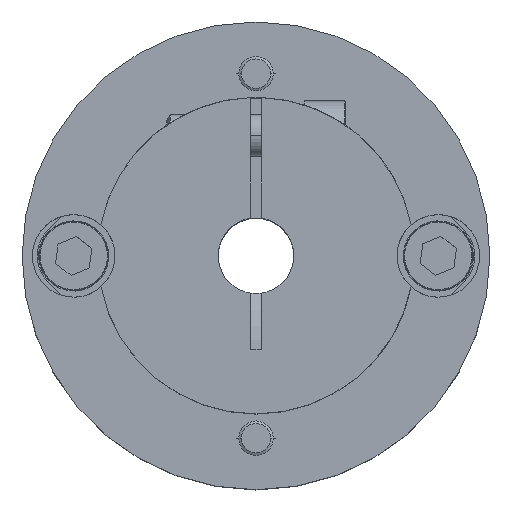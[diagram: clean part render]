
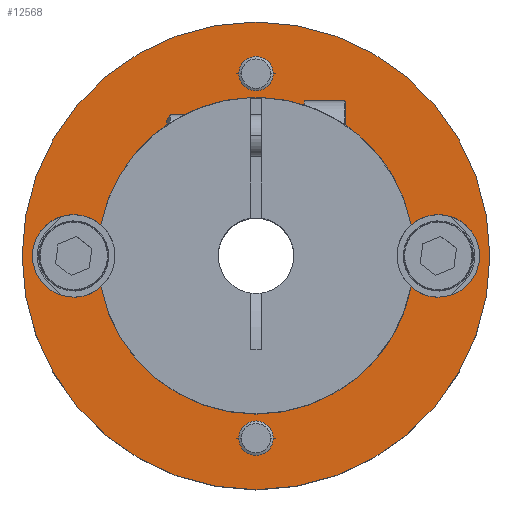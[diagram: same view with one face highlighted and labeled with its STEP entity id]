
A CAD part, top view. The second image highlights one B-rep face of the part: STEP entity #12568.
In plain terms, the highlighted planar face has unit normal (0, 0, 1).
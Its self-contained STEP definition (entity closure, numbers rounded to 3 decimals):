
#95 = CARTESIAN_POINT ( 'NONE',  ( 34.905, 33.451, 103.015 ) ) ;
#378 = AXIS2_PLACEMENT_3D ( 'NONE', #2289, #2217, #2203 ) ;
#468 = CARTESIAN_POINT ( 'NONE',  ( -30.095, 33.451, 103.015 ) ) ;
#503 = CARTESIAN_POINT ( 'NONE',  ( 24.957, 37.969, 103.015 ) ) ;
#629 = EDGE_CURVE ( 'NONE', #9625, #2410, #5537, .T. ) ;
#710 = VERTEX_POINT ( 'NONE', #10195 ) ;
#768 = CARTESIAN_POINT ( 'NONE',  ( 28.905, 33.451, 103.015 ) ) ;
#797 = CARTESIAN_POINT ( 'NONE',  ( 2.405, 59.951, 103.015 ) ) ;
#1037 = AXIS2_PLACEMENT_3D ( 'NONE', #4878, #11620, #5832 ) ;
#1059 = DIRECTION ( 'NONE',  ( -1., 0., 0. ) ) ;
#1308 = EDGE_CURVE ( 'NONE', #4390, #4210, #3944, .T. ) ;
#1508 = AXIS2_PLACEMENT_3D ( 'NONE', #11137, #11115, #4723 ) ;
#1600 = VERTEX_POINT ( 'NONE', #7363 ) ;
#1704 = VERTEX_POINT ( 'NONE', #5341 ) ;
#1745 = DIRECTION ( 'NONE',  ( -1., 0., 0. ) ) ;
#1794 = DIRECTION ( 'NONE',  ( -1., 0., 0. ) ) ;
#1871 = EDGE_CURVE ( 'NONE', #5350, #3163, #2041, .T. ) ;
#1877 = EDGE_LOOP ( 'NONE', ( #10885, #11039 ) ) ;
#1929 = AXIS2_PLACEMENT_3D ( 'NONE', #2792, #9546, #3805 ) ;
#2041 = CIRCLE ( 'NONE', #12005, 2.5 ) ;
#2203 = DIRECTION ( 'NONE',  ( -1., 0., 0. ) ) ;
#2216 = ORIENTED_EDGE ( 'NONE', *, *, #7786, .F. ) ;
#2217 = DIRECTION ( 'NONE',  ( 0., 0., 1. ) ) ;
#2224 = EDGE_LOOP ( 'NONE', ( #11976, #3776 ) ) ;
#2289 = CARTESIAN_POINT ( 'NONE',  ( 2.405, 33.451, 103.015 ) ) ;
#2321 = DIRECTION ( 'NONE',  ( 0., 0., 1. ) ) ;
#2387 = ORIENTED_EDGE ( 'NONE', *, *, #4632, .F. ) ;
#2410 = VERTEX_POINT ( 'NONE', #10324 ) ;
#2654 = EDGE_CURVE ( 'NONE', #1704, #4256, #3804, .T. ) ;
#2792 = CARTESIAN_POINT ( 'NONE',  ( 2.405, 33.451, 103.015 ) ) ;
#3065 = DIRECTION ( 'NONE',  ( -1., 0., 0. ) ) ;
#3089 = DIRECTION ( 'NONE',  ( 0., 0., 1. ) ) ;
#3092 = DIRECTION ( 'NONE',  ( 0., 0., 1. ) ) ;
#3101 = CARTESIAN_POINT ( 'NONE',  ( -24.095, 33.451, 103.015 ) ) ;
#3118 = CARTESIAN_POINT ( 'NONE',  ( 28.905, 33.451, 103.015 ) ) ;
#3163 = VERTEX_POINT ( 'NONE', #5232 ) ;
#3414 = EDGE_LOOP ( 'NONE', ( #2387, #5923 ) ) ;
#3584 = CARTESIAN_POINT ( 'NONE',  ( 4.905, 59.951, 103.015 ) ) ;
#3630 = EDGE_LOOP ( 'NONE', ( #2216, #6204, #12586, #11182, #4395, #4251 ) ) ;
#3758 = CIRCLE ( 'NONE', #378, 23. ) ;
#3776 = ORIENTED_EDGE ( 'NONE', *, *, #7007, .T. ) ;
#3804 = CIRCLE ( 'NONE', #10939, 2.5 ) ;
#3805 = DIRECTION ( 'NONE',  ( -1., 0., 0. ) ) ;
#3810 = PLANE ( 'NONE',  #1037 ) ;
#3849 = FACE_BOUND ( 'NONE', #3414, .T. ) ;
#3944 = CIRCLE ( 'NONE', #6864, 6. ) ;
#4136 = FACE_BOUND ( 'NONE', #3630, .T. ) ;
#4210 = VERTEX_POINT ( 'NONE', #95 ) ;
#4251 = ORIENTED_EDGE ( 'NONE', *, *, #11323, .F. ) ;
#4256 = VERTEX_POINT ( 'NONE', #12048 ) ;
#4390 = VERTEX_POINT ( 'NONE', #12436 ) ;
#4395 = ORIENTED_EDGE ( 'NONE', *, *, #7865, .F. ) ;
#4632 = EDGE_CURVE ( 'NONE', #4256, #1704, #4746, .T. ) ;
#4723 = DIRECTION ( 'NONE',  ( -1., 0., 0. ) ) ;
#4746 = CIRCLE ( 'NONE', #1508, 2.5 ) ;
#4878 = CARTESIAN_POINT ( 'NONE',  ( 2.405, 33.451, 103.015 ) ) ;
#4925 = CARTESIAN_POINT ( 'NONE',  ( -31.595, 33.451, 103.015 ) ) ;
#5232 = CARTESIAN_POINT ( 'NONE',  ( -0.095, 59.951, 103.015 ) ) ;
#5279 = CARTESIAN_POINT ( 'NONE',  ( -24.095, 33.451, 103.015 ) ) ;
#5310 = CIRCLE ( 'NONE', #9965, 6. ) ;
#5341 = CARTESIAN_POINT ( 'NONE',  ( 4.905, 6.951, 103.015 ) ) ;
#5350 = VERTEX_POINT ( 'NONE', #3584 ) ;
#5537 = CIRCLE ( 'NONE', #7140, 23. ) ;
#5612 = CARTESIAN_POINT ( 'NONE',  ( 2.405, 59.951, 103.015 ) ) ;
#5832 = DIRECTION ( 'NONE',  ( -1., 0., 0. ) ) ;
#5923 = ORIENTED_EDGE ( 'NONE', *, *, #2654, .F. ) ;
#5977 = DIRECTION ( 'NONE',  ( -1., 0., 0. ) ) ;
#6204 = ORIENTED_EDGE ( 'NONE', *, *, #629, .F. ) ;
#6223 = DIRECTION ( 'NONE',  ( -1., 0., 0. ) ) ;
#6407 = DIRECTION ( 'NONE',  ( 0., 0., 1. ) ) ;
#6425 = FACE_OUTER_BOUND ( 'NONE', #2224, .T. ) ;
#6864 = AXIS2_PLACEMENT_3D ( 'NONE', #3118, #2321, #1059 ) ;
#7007 = EDGE_CURVE ( 'NONE', #10327, #710, #7205, .T. ) ;
#7140 = AXIS2_PLACEMENT_3D ( 'NONE', #11636, #6407, #12162 ) ;
#7205 = CIRCLE ( 'NONE', #9340, 34. ) ;
#7363 = CARTESIAN_POINT ( 'NONE',  ( -20.147, 28.933, 103.015 ) ) ;
#7448 = DIRECTION ( 'NONE',  ( -1., 0., 0. ) ) ;
#7462 = DIRECTION ( 'NONE',  ( 0., 0., 1. ) ) ;
#7473 = CARTESIAN_POINT ( 'NONE',  ( 2.405, 33.451, 103.015 ) ) ;
#7495 = AXIS2_PLACEMENT_3D ( 'NONE', #797, #7634, #1794 ) ;
#7583 = DIRECTION ( 'NONE',  ( 0., 0., 1. ) ) ;
#7634 = DIRECTION ( 'NONE',  ( 0., 0., 1. ) ) ;
#7786 = EDGE_CURVE ( 'NONE', #2410, #10892, #11773, .T. ) ;
#7865 = EDGE_CURVE ( 'NONE', #1600, #4390, #3758, .T. ) ;
#9340 = AXIS2_PLACEMENT_3D ( 'NONE', #7473, #7462, #7448 ) ;
#9546 = DIRECTION ( 'NONE',  ( 0., 0., 1. ) ) ;
#9625 = VERTEX_POINT ( 'NONE', #503 ) ;
#9728 = AXIS2_PLACEMENT_3D ( 'NONE', #3101, #3089, #3065 ) ;
#9965 = AXIS2_PLACEMENT_3D ( 'NONE', #768, #7583, #1745 ) ;
#10000 = EDGE_CURVE ( 'NONE', #3163, #5350, #11802, .T. ) ;
#10186 = DIRECTION ( 'NONE',  ( -1., 0., 0. ) ) ;
#10195 = CARTESIAN_POINT ( 'NONE',  ( 36.405, 33.451, 103.015 ) ) ;
#10227 = DIRECTION ( 'NONE',  ( 0., 0., 1. ) ) ;
#10324 = CARTESIAN_POINT ( 'NONE',  ( -20.147, 37.969, 103.015 ) ) ;
#10327 = VERTEX_POINT ( 'NONE', #4925 ) ;
#10453 = CIRCLE ( 'NONE', #11275, 6. ) ;
#10464 = CARTESIAN_POINT ( 'NONE',  ( 2.405, 6.951, 103.015 ) ) ;
#10885 = ORIENTED_EDGE ( 'NONE', *, *, #10000, .F. ) ;
#10892 = VERTEX_POINT ( 'NONE', #468 ) ;
#10939 = AXIS2_PLACEMENT_3D ( 'NONE', #10464, #10227, #10186 ) ;
#11039 = ORIENTED_EDGE ( 'NONE', *, *, #1871, .F. ) ;
#11115 = DIRECTION ( 'NONE',  ( 0., 0., 1. ) ) ;
#11137 = CARTESIAN_POINT ( 'NONE',  ( 2.405, 6.951, 103.015 ) ) ;
#11182 = ORIENTED_EDGE ( 'NONE', *, *, #1308, .F. ) ;
#11275 = AXIS2_PLACEMENT_3D ( 'NONE', #5279, #12037, #6223 ) ;
#11323 = EDGE_CURVE ( 'NONE', #10892, #1600, #10453, .T. ) ;
#11559 = FACE_BOUND ( 'NONE', #1877, .T. ) ;
#11620 = DIRECTION ( 'NONE',  ( 0., 0., 1. ) ) ;
#11636 = CARTESIAN_POINT ( 'NONE',  ( 2.405, 33.451, 103.015 ) ) ;
#11733 = EDGE_CURVE ( 'NONE', #4210, #9625, #5310, .T. ) ;
#11747 = EDGE_CURVE ( 'NONE', #710, #10327, #11785, .T. ) ;
#11773 = CIRCLE ( 'NONE', #9728, 6. ) ;
#11785 = CIRCLE ( 'NONE', #1929, 34. ) ;
#11802 = CIRCLE ( 'NONE', #7495, 2.5 ) ;
#11976 = ORIENTED_EDGE ( 'NONE', *, *, #11747, .T. ) ;
#12005 = AXIS2_PLACEMENT_3D ( 'NONE', #5612, #3092, #5977 ) ;
#12037 = DIRECTION ( 'NONE',  ( 0., 0., 1. ) ) ;
#12048 = CARTESIAN_POINT ( 'NONE',  ( -0.095, 6.951, 103.015 ) ) ;
#12162 = DIRECTION ( 'NONE',  ( -1., 0., 0. ) ) ;
#12436 = CARTESIAN_POINT ( 'NONE',  ( 24.957, 28.933, 103.015 ) ) ;
#12568 = ADVANCED_FACE ( 'NONE', ( #3849, #4136, #11559, #6425 ), #3810, .T. ) ;
#12586 = ORIENTED_EDGE ( 'NONE', *, *, #11733, .F. ) ;
